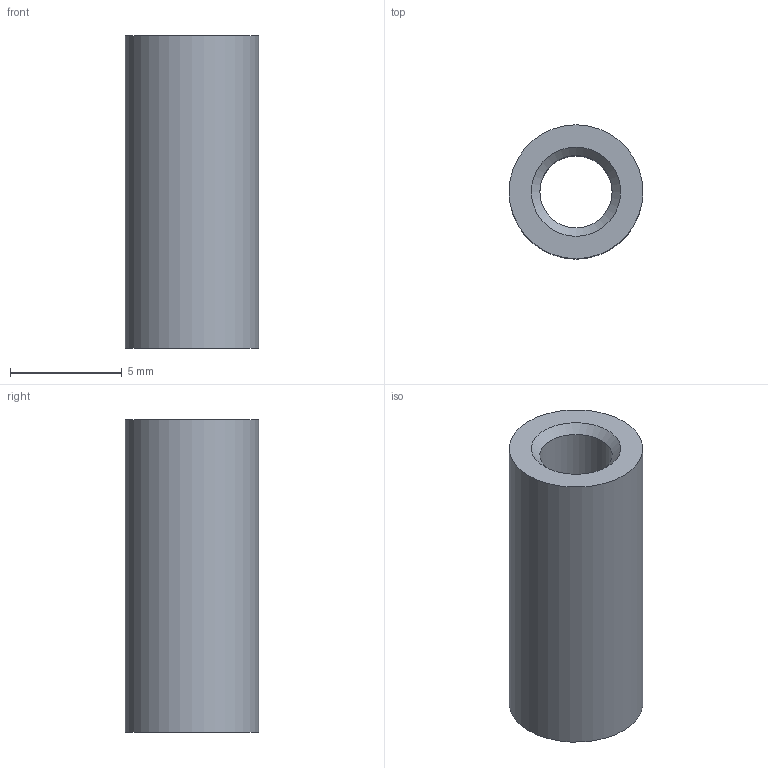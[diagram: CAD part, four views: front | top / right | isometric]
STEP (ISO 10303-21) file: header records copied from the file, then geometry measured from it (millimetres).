
FILE_DESCRIPTION(/* description */ (''),/* implementation_level */ '2;1');
FILE_NAME(/* name */ 'C:\ADSK_DMS_WS\Designs\Vorschläge\Loc Schalen\Schraubenlängebestimmung\Schrauben\Gewindehülse 14.stp',/* time_stamp */ '2021-10-05T14:04:59+02:00',/* author */ ('gm'),/* organization */ (''),/* preprocessor_version */ 'ST-DEVELOPER v16.5',/* originating_system */ 'Autodesk Inventor 2017',/* authorisation */ '');
FILE_SCHEMA (('AUTOMOTIVE_DESIGN { 1 0 10303 214 3 1 1 }'));
Length unit declared in the file: millimetre
Products named in the file (1): Gewindehülse 14
Bounding box: 6 x 6 x 14 mm (x, y, z)
Volume: 278.6 mm3; surface area: 442.3 mm2
Topology: 1 solids, 1 shells, 6 faces, 11 edges, 7 vertices
Faces by surface type: cone 2, cylinder 2, plane 2
Full cylindrical faces by diameter (mm): 3.242 x1, 6 x1
Entity records: 158 total; most frequent: DIRECTION 26, CARTESIAN_POINT 19, AXIS2_PLACEMENT_3D 13, EDGE_LOOP 12, ORIENTED_EDGE 12, FACE_BOUND 6, FACE_OUTER_BOUND 6, CIRCLE 6
